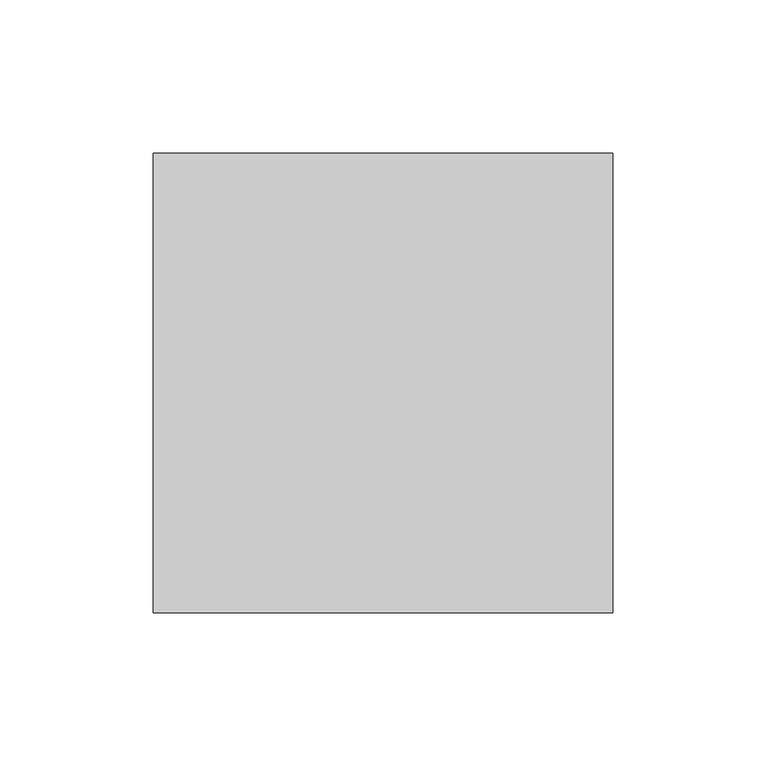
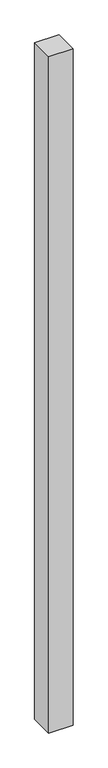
"""IFC4 building model written with IfcOpenShell, lengths in millimetres: proxy geometry, Брус : 150х150."""

from ifc_helpers import new_model, si_unit, origin, origin_with_axes, place, context, project, spatial, polyline, outline, extrude, source, transform, mapped, element, save


def generic_models_5c8551f2(model_context):
    return source(origin(), model_context, "Body", "SweptSolid", [
        extrude(outline(polyline([(150.0, 0.0), (0.0, 0.0), (0.0, 150.0), (150.0, 150.0), (150.0, 0.0)])), origin_with_axes(), (0.0, 0.0, 1.0), 4430.0),
    ])


if __name__ == "__main__":
    model = new_model("IFC4")
    model_context = context("Model", 3, world=origin())
    ifc_project = project(units=[si_unit("LENGTHUNIT", "METRE", prefix="MILLI")], contexts=[model_context])
    site = spatial("IfcSite", under=ifc_project)
    building = spatial("IfcBuilding", under=site)
    placement = place(None, origin())
    generic_models_shape = generic_models_5c8551f2(model_context)
    element("IfcBuildingElementProxy", 1, Name="Брус : 150х150", ObjectType="Брус : 150х150", at=placement, inside=building, context=model_context, shape_type="MappedRepresentation", body=[
        mapped(generic_models_shape, transform((0.0, 0.0, 0.0), x_axis=(1.0, 0.0, 0.0), y_axis=(0.0, 1.0, 0.0), z_axis=(0.0, 0.0, 1.0))),
    ])
    save(model, "model.ifc")
